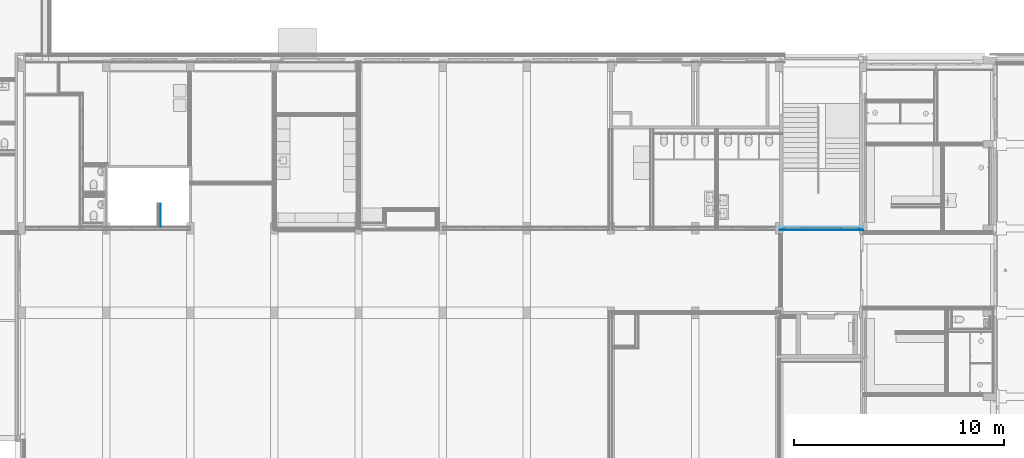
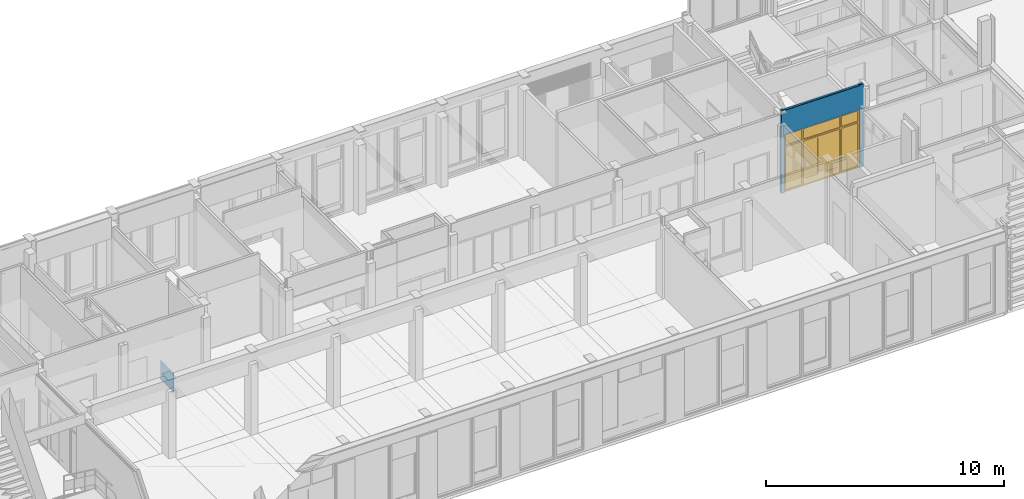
# One storey, part 67 of 109: 4 building element parts, 1 door, 1 opening, 2 elements without a shape of their own, plus 2 elements that do not belong to this part.
"""IFC2X3 building model written with IfcOpenShell, lengths in millimetres."""

from ifc_helpers import new_model, entity, si_unit, converted_unit, derived_unit, money_unit, direction, frame, origin_with_axes, place, context, subcontext, project, spatial, open_shell, faceted_brep, surface_model, material, type_object, element, fill, aggregate, save


model = new_model("IFC2X3")

# Units and contexts
model_context = context("Model", 3, precision=0.01, world=origin_with_axes(), true_north=direction((0.0, 1.0)))
body_context = subcontext(model_context, "Body", "Model", "MODEL_VIEW")
ifc_project = project(units=[si_unit("LENGTHUNIT", "METRE", prefix="MILLI"), si_unit("AREAUNIT", "SQUARE_METRE"), si_unit("VOLUMEUNIT", "CUBIC_METRE"), converted_unit("PLANEANGLEUNIT", "DEGREE", entity("IfcPlaneAngleMeasure", 0.0174532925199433), si_unit("PLANEANGLEUNIT", "RADIAN"), dimensions=[0, 0, 0, 0, 0, 0, 0]), money_unit("EUR"), converted_unit("TIMEUNIT", "Year", entity("IfcTimeMeasure", 31557600.0), si_unit("TIMEUNIT", "SECOND"), dimensions=[0, 0, 1, 0, 0, 0, 0]), si_unit("MASSUNIT", "GRAM", prefix="KILO"), si_unit("THERMODYNAMICTEMPERATUREUNIT", "DEGREE_CELSIUS"), si_unit("LUMINOUSINTENSITYUNIT", "LUMEN"), si_unit("ENERGYUNIT", "JOULE", prefix="MEGA"), derived_unit("THERMALCONDUCTANCEUNIT", [(si_unit("POWERUNIT", "WATT"), 1), (si_unit("LENGTHUNIT", "METRE"), -1), (si_unit("THERMODYNAMICTEMPERATUREUNIT", "KELVIN"), -1)]), derived_unit("SPECIFICHEATCAPACITYUNIT", [(si_unit("ENERGYUNIT", "JOULE"), 1), (si_unit("MASSUNIT", "GRAM", prefix="KILO"), -1), (si_unit("THERMODYNAMICTEMPERATUREUNIT", "KELVIN"), -1)]), derived_unit("MASSDENSITYUNIT", [(si_unit("MASSUNIT", "GRAM", prefix="KILO"), 1), (si_unit("VOLUMEUNIT", "CUBIC_METRE"), -1)])], contexts=[model_context])

# Site, building, storey
site_placement = place(None, origin_with_axes())
site = spatial("IfcSite", under=ifc_project, at=site_placement, Name="<site naam>", CompositionType="ELEMENT")
building_placement = place(site_placement, origin_with_axes())
building = spatial("IfcBuilding", under=site, at=building_placement, Name="<Naam gebouw>", CompositionType="ELEMENT")
storey_placement = place(building_placement, origin_with_axes())
storey = spatial("IfcBuildingStorey", under=building, at=storey_placement, Name="00 Begane grond", CompositionType="ELEMENT", Elevation=0.0)

# Door
door_style = type_object("IfcDoorStyle", Name="D2 bl zl2 27", ConstructionType="NOTDEFINED", OperationType="USERDEFINED", ParameterTakesPrecedence=False, Sizeable=False)
wall_1_placement = place(storey_placement, frame((48015.00007716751, 11999.99999919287, 0.0), z_axis=(0.0, 0.0, 1.0), x_axis=(1.0, 2.196419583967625e-10, 0.0)))
opening_placement = place(wall_1_placement, frame((1984.999943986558, 0.0, 0.0), z_axis=(0.0, 0.0, 1.0), x_axis=(1.0, 0.0, 0.0)))
door_placement = place(opening_placement, frame((-1824.999978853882, 0.0, 0.0), z_axis=(0.0, 0.0, 1.0), x_axis=(1.0, 0.0, 0.0)))
door = element("IfcDoor", 1, at=door_placement, inside=storey, type_object=door_style, Name="22_BI-D-04_305", ObjectType="DOOR", OverallHeight=3000.0, OverallWidth=3650.0, context=body_context, shape_type="SurfaceModel", body=[
    faceted_brep([(907.9999788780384, 34.99999976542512, 12.0000000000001), (924.9999788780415, 34.99999976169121, 12.0000000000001), (924.9999788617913, -39.00000023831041, 12.0000000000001), (2724.999978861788, -39.00000063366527, 11.99999999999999), (2724.999978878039, 34.99999936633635, 11.99999999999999), (2741.999978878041, 34.99999936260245, 11.99999999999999), (2741.999978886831, 74.9999993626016, 11.99999999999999), (907.9999788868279, 74.99999976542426, 12.0000000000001), (907.9999788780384, 34.99999976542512, 0.0), (924.9999788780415, 34.99999976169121, 0.0), (924.9999788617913, -39.00000023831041, 0.0), (2724.999978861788, -39.00000063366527, 0.0), (2724.999978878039, 34.99999936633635, 0.0), (2741.999978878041, 34.99999936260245, 0.0), (2741.999978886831, 74.9999993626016, 0.0), (907.9999788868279, 74.99999976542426, 0.0)], [[[0, 1, 2, 3, 4, 5, 6, 7]], [[1, 0, 8, 9]], [[10, 2, 1, 9]], [[2, 10, 11, 3]], [[3, 11, 12, 4]], [[5, 4, 12, 13]], [[13, 14, 6, 5]], [[15, 7, 6, 14]], [[8, 0, 7, 15]], [[9, 8, 15, 14, 13, 12, 11, 10]]]),
    faceted_brep([(3.294786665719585e-08, 74.9999999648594, 0.0), (67.00000003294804, 74.99999995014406, 0.0), (67.00000000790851, -39.00000004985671, 0.0), (7.908340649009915e-09, -39.00000003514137, 0.0), (3.294786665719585e-08, 74.9999999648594, 2933.0), (67.00000003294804, 74.99999995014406, 2933.0), (67.00000003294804, 74.99999995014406, 2367.0), (67.00000003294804, 74.99999995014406, 2300.0), (67.00000003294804, 74.99999995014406, 66.99999999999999), (67.00000000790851, -39.00000004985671, 67.0), (67.00000000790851, -39.00000004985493, 2300.0), (67.00000000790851, -39.00000004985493, 2367.0), (67.00000000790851, -39.00000004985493, 2933.0), (7.908340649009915e-09, -39.00000003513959, 2933.0)], [[[0, 1, 2, 3]], [[0, 4, 5, 6, 7, 8, 1]], [[1, 8, 9, 2]], [[3, 2, 9, 10, 11, 12, 13]], [[4, 0, 3, 13]], [[5, 4, 13, 12]], [[6, 5, 12, 11]], [[7, 6, 11, 10]], [[8, 7, 10, 9]]]),
    faceted_brep([(924.9999788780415, 34.99999976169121, 2317.0), (924.9999788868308, 74.99999976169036, 2317.0), (924.9999788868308, 74.99999976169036, 2367.0), (924.9999788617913, -39.00000023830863, 2367.0), (924.9999788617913, -39.00000023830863, 2300.0), (924.9999788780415, 34.99999976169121, 2300.0), (907.9999788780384, 34.99999976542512, 2317.0), (907.9999788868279, 74.99999976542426, 2317.0), (907.9999788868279, 74.99999976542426, 0.0), (857.9999788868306, 74.99999977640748, 0.0), (857.9999788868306, 74.99999977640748, 66.99999999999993), (857.9999788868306, 74.99999977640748, 2300.0), (857.9999788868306, 74.99999977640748, 2367.0), (857.9999788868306, 74.99999977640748, 2933.0), (924.9999788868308, 74.99999976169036, 2933.0), (924.9999788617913, -39.00000023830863, 2933.0), (857.9999788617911, -39.00000022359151, 2933.0), (857.9999788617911, -39.00000022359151, 2367.0), (857.9999788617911, -39.00000022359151, 2300.0), (857.9999788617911, -39.00000022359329, 66.99999999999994), (857.9999788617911, -39.00000022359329, 0.0), (924.9999788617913, -39.00000023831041, 0.0), (924.9999788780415, 34.99999976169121, 0.0), (907.9999788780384, 34.99999976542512, 0.0)], [[[0, 1, 2, 3, 4, 5]], [[1, 0, 6, 7]], [[7, 8, 9, 10, 11, 12, 13, 14, 2, 1]], [[14, 15, 3, 2]], [[4, 3, 15, 16, 17, 18, 19, 20, 21]], [[22, 5, 4, 21]], [[0, 5, 22, 23, 6]], [[8, 7, 6, 23]], [[23, 22, 21, 20, 9, 8]], [[9, 20, 19, 10]], [[10, 19, 18, 11]], [[11, 18, 17, 12]], [[12, 17, 16, 13]], [[13, 16, 15, 14]]]),
    faceted_brep([(67.00000003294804, 74.99999995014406, 66.99999999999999), (67.00000003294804, 74.99999995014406, 0.0), (67.00000000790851, -39.00000004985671, 0.0), (67.00000000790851, -39.00000004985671, 67.0), (857.9999788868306, 74.99999977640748, 66.99999999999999), (857.9999788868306, 74.99999977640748, 0.0), (857.9999788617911, -39.00000022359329, 0.0), (857.9999788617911, -39.00000022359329, 67.0)], [[[0, 1, 2, 3]], [[0, 4, 5, 1]], [[1, 5, 6, 2]], [[3, 2, 6, 7]], [[4, 0, 3, 7]], [[5, 4, 7, 6]]]),
    faceted_brep([(3649.999957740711, 74.99999916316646, 0.0), (3649.999957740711, 74.99999916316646, 2933.0), (3649.999957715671, -39.00000083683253, 2933.0), (3649.999957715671, -39.0000008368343, 0.0), (3582.999957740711, 74.9999991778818, 0.0), (3582.999957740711, 74.9999991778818, 66.99999999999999), (3582.999957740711, 74.9999991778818, 2300.0), (3582.999957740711, 74.9999991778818, 2367.0), (3582.999957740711, 74.9999991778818, 2933.0), (3582.999957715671, -39.00000082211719, 2933.0), (3582.999957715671, -39.00000082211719, 2367.0), (3582.999957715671, -39.00000082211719, 2300.0), (3582.999957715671, -39.00000082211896, 67.0), (3582.999957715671, -39.00000082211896, 0.0)], [[[0, 1, 2, 3]], [[0, 4, 5, 6, 7, 8, 1]], [[1, 8, 9, 2]], [[3, 2, 9, 10, 11, 12, 13]], [[4, 0, 3, 13]], [[5, 4, 13, 12]], [[6, 5, 12, 11]], [[7, 6, 11, 10]], [[8, 7, 10, 9]]]),
    faceted_brep([(2741.999978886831, 74.9999993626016, 2317.0), (2724.999978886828, 74.9999993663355, 2317.0), (2724.999978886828, 74.9999993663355, 2367.0), (2724.999978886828, 74.9999993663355, 2933.0), (2791.999978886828, 74.99999935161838, 2933.0), (2791.999978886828, 74.99999935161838, 2367.0), (2791.999978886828, 74.99999935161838, 2300.0), (2791.999978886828, 74.99999935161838, 66.99999999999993), (2791.999978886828, 74.99999935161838, 0.0), (2741.999978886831, 74.9999993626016, 0.0), (2741.999978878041, 34.99999936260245, 2317.0), (2724.999978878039, 34.99999936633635, 2317.0), (2724.999978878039, 34.99999936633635, 2300.0), (2724.999978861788, -39.00000063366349, 2300.0), (2724.999978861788, -39.00000063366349, 2367.0), (2724.999978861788, -39.00000063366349, 2933.0), (2791.999978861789, -39.00000064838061, 2933.0), (2791.999978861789, -39.00000064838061, 2367.0), (2791.999978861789, -39.00000064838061, 2300.0), (2791.999978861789, -39.00000064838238, 66.99999999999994), (2791.999978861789, -39.00000064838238, 0.0), (2741.999978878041, 34.99999936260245, 0.0), (2724.999978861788, -39.00000063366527, 0.0), (2724.999978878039, 34.99999936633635, 0.0)], [[[0, 1, 2, 3, 4, 5, 6, 7, 8, 9]], [[1, 0, 10, 11]], [[11, 12, 13, 14, 2, 1]], [[2, 14, 15, 3]], [[3, 15, 16, 4]], [[4, 16, 17, 5]], [[5, 17, 18, 6]], [[6, 18, 19, 7]], [[7, 19, 20, 8]], [[21, 9, 8, 20, 22, 23]], [[0, 9, 21, 10]], [[21, 23, 12, 11, 10]], [[12, 23, 22, 13]], [[19, 18, 17, 16, 15, 14, 13, 22, 20]]]),
    faceted_brep([(2791.999978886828, 74.99999935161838, 66.99999999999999), (2791.999978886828, 74.99999935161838, 0.0), (2791.999978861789, -39.00000064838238, 0.0), (2791.999978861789, -39.00000064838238, 67.0), (3582.999957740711, 74.9999991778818, 66.99999999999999), (3582.999957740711, 74.9999991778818, 0.0), (3582.999957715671, -39.00000082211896, 0.0), (3582.999957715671, -39.00000082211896, 67.0)], [[[0, 1, 2, 3]], [[0, 4, 5, 1]], [[1, 5, 6, 2]], [[3, 2, 6, 7]], [[4, 0, 3, 7]], [[5, 4, 7, 6]]]),
    faceted_brep([(3.294786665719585e-08, 74.9999999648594, 3000.0), (3.294786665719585e-08, 74.9999999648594, 2933.0), (7.908340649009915e-09, -39.00000003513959, 2933.0), (7.908340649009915e-09, -39.00000003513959, 3000.0), (3649.999957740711, 74.99999916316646, 3000.0), (3649.999957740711, 74.99999916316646, 2933.0), (3582.999957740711, 74.9999991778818, 2933.0), (2791.999978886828, 74.99999935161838, 2933.0), (2724.999978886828, 74.9999993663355, 2933.0), (924.9999788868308, 74.99999976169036, 2933.0), (857.9999788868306, 74.99999977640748, 2933.0), (67.00000003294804, 74.99999995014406, 2933.0), (67.00000000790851, -39.00000004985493, 2933.0), (857.9999788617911, -39.00000022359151, 2933.0), (924.9999788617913, -39.00000023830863, 2933.0), (2724.999978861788, -39.00000063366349, 2933.0), (2791.999978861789, -39.00000064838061, 2933.0), (3582.999957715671, -39.00000082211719, 2933.0), (3649.999957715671, -39.00000083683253, 2933.0), (3649.999957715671, -39.00000083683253, 3000.0)], [[[0, 1, 2, 3]], [[0, 4, 5, 6, 7, 8, 9, 10, 11, 1]], [[1, 11, 12, 2]], [[3, 2, 12, 13, 14, 15, 16, 17, 18, 19]], [[4, 0, 3, 19]], [[5, 4, 19, 18]], [[6, 5, 18, 17]], [[7, 6, 17, 16]], [[8, 7, 16, 15]], [[9, 8, 15, 14]], [[10, 9, 14, 13]], [[11, 10, 13, 12]]]),
    faceted_brep([(67.00000003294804, 74.99999995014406, 2300.0), (857.9999788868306, 74.99999977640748, 2300.0), (857.9999788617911, -39.00000022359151, 2300.0), (67.00000000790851, -39.00000004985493, 2300.0), (67.00000003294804, 74.99999995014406, 2367.0), (857.9999788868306, 74.99999977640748, 2367.0), (857.9999788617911, -39.00000022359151, 2367.0), (67.00000000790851, -39.00000004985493, 2367.0)], [[[0, 1, 2, 3]], [[0, 4, 5, 1]], [[1, 5, 6, 2]], [[3, 2, 6, 7]], [[4, 0, 3, 7]], [[5, 4, 7, 6]]]),
    faceted_brep([(3582.999957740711, 74.9999991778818, 2367.0), (2791.999978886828, 74.99999935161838, 2367.0), (2791.999978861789, -39.00000064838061, 2367.0), (3582.999957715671, -39.00000082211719, 2367.0), (3582.999957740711, 74.9999991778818, 2300.0), (2791.999978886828, 74.99999935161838, 2300.0), (2791.999978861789, -39.00000064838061, 2300.0), (3582.999957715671, -39.00000082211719, 2300.0)], [[[0, 1, 2, 3]], [[0, 4, 5, 1]], [[1, 5, 6, 2]], [[3, 2, 6, 7]], [[4, 0, 3, 7]], [[5, 4, 7, 6]]]),
    faceted_brep([(2724.999978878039, 34.99999936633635, 2317.0), (2724.999978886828, 74.9999993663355, 2317.0), (2724.999978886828, 74.9999993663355, 2367.0), (2724.999978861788, -39.00000063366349, 2367.0), (2724.999978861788, -39.00000063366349, 2300.0), (2724.999978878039, 34.99999936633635, 2300.0), (924.9999788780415, 34.99999976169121, 2317.0), (924.9999788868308, 74.99999976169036, 2317.0), (924.9999788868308, 74.99999976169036, 2367.0), (924.9999788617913, -39.00000023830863, 2367.0), (924.9999788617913, -39.00000023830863, 2300.0), (924.9999788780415, 34.99999976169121, 2300.0)], [[[0, 1, 2, 3, 4, 5]], [[1, 0, 6, 7]], [[1, 7, 8, 2]], [[8, 9, 3, 2]], [[10, 4, 3, 9]], [[11, 5, 4, 10]], [[0, 5, 11, 6]], [[6, 11, 10, 9, 8, 7]]]),
    faceted_brep([(2741.999978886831, 74.9999993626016, 312.0), (2741.999978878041, 34.99999936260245, 312.0), (2591.999978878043, 34.99999939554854, 312.0), (2591.999978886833, 74.99999939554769, 312.0), (2741.999978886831, 74.9999993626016, 2167.0), (2741.999978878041, 34.99999936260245, 2167.0), (2591.999978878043, 34.99999939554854, 2167.0), (2591.999978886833, 74.99999939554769, 2167.0)], [[[0, 1, 2, 3]], [[4, 5, 1, 0]], [[1, 5, 6, 2]], [[3, 2, 6, 7]], [[0, 3, 7, 4]], [[7, 6, 5, 4]]]),
    faceted_brep([(1824.999978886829, 74.99999956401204, 312.0), (1824.99997887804, 34.9999995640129, 312.0), (1824.99997887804, 34.9999995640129, 2167.0), (1824.999978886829, 74.99999956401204, 2167.0), (1974.999978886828, 74.99999953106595, 312.0), (1974.999978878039, 34.99999953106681, 312.0), (1974.999978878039, 34.99999953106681, 2167.0), (1974.999978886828, 74.99999953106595, 2167.0)], [[[0, 1, 2, 3]], [[4, 5, 1, 0]], [[1, 5, 6, 2]], [[3, 2, 6, 7]], [[0, 3, 7, 4]], [[7, 6, 5, 4]]]),
    faceted_brep([(2741.999978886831, 74.9999993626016, 11.99999999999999), (2741.999978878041, 34.99999936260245, 11.99999999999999), (1824.99997887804, 34.9999995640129, 11.99999999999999), (1824.999978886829, 74.99999956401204, 11.99999999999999), (2741.999978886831, 74.9999993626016, 312.0), (2741.999978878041, 34.99999936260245, 312.0), (2591.999978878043, 34.99999939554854, 312.0), (1974.999978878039, 34.99999953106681, 312.0), (1824.99997887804, 34.9999995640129, 312.0), (1824.999978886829, 74.99999956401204, 312.0), (1974.999978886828, 74.99999953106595, 312.0), (2591.999978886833, 74.99999939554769, 312.0)], [[[0, 1, 2, 3]], [[4, 5, 1, 0]], [[1, 5, 6, 7, 8, 2]], [[3, 2, 8, 9]], [[0, 3, 9, 10, 11, 4]], [[11, 6, 5, 4]], [[10, 7, 6, 11]], [[9, 8, 7, 10]]]),
    faceted_brep([(2741.999978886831, 74.9999993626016, 2317.0), (2741.999978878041, 34.99999936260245, 2317.0), (2741.999978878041, 34.99999936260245, 2167.0), (2741.999978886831, 74.9999993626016, 2167.0), (1824.999978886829, 74.99999956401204, 2317.0), (1824.99997887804, 34.9999995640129, 2317.0), (1824.99997887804, 34.9999995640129, 2167.0), (1974.999978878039, 34.99999953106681, 2167.0), (2591.999978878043, 34.99999939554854, 2167.0), (2591.999978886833, 74.99999939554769, 2167.0), (1974.999978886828, 74.99999953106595, 2167.0), (1824.999978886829, 74.99999956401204, 2167.0)], [[[0, 1, 2, 3]], [[4, 5, 1, 0]], [[1, 5, 6, 7, 8, 2]], [[3, 2, 8, 9]], [[0, 3, 9, 10, 11, 4]], [[11, 6, 5, 4]], [[10, 7, 6, 11]], [[9, 8, 7, 10]]]),
    surface_model("IfcShellBasedSurfaceModel", [(2591.999978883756, 60.99999939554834, 312.0), (1974.999978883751, 60.99999953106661, 312.0), (1974.999978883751, 60.99999953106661, 2167.0), (2591.999978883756, 60.99999939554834, 2167.0)], [open_shell([[[0, 1, 2, 3]]])]),
    surface_model("IfcShellBasedSurfaceModel", [(2591.99997888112, 48.99999939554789, 312.0), (2591.99997888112, 48.99999939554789, 2167.0), (1974.999978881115, 48.99999953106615, 2167.0), (1974.999978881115, 48.99999953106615, 312.0)], [open_shell([[[0, 1, 2, 3]]])]),
    faceted_brep([(907.9999788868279, 74.99999976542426, 312.0), (1057.999978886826, 74.99999973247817, 312.0), (1057.999978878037, 34.99999973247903, 312.0), (907.9999788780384, 34.99999976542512, 312.0), (907.9999788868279, 74.99999976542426, 2167.0), (1057.999978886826, 74.99999973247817, 2167.0), (1057.999978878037, 34.99999973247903, 2167.0), (907.9999788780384, 34.99999976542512, 2167.0)], [[[0, 1, 2, 3]], [[0, 4, 5, 1]], [[1, 5, 6, 2]], [[3, 2, 6, 7]], [[4, 0, 3, 7]], [[5, 4, 7, 6]]]),
    faceted_brep([(1824.999978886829, 74.99999956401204, 312.0), (1824.999978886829, 74.99999956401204, 2167.0), (1824.99997887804, 34.9999995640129, 2167.0), (1824.99997887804, 34.9999995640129, 312.0), (1674.999978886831, 74.99999959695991, 312.0), (1674.999978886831, 74.99999959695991, 2167.0), (1674.999978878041, 34.99999959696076, 2167.0), (1674.999978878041, 34.99999959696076, 312.0)], [[[0, 1, 2, 3]], [[0, 4, 5, 1]], [[1, 5, 6, 2]], [[3, 2, 6, 7]], [[4, 0, 3, 7]], [[5, 4, 7, 6]]]),
    faceted_brep([(907.9999788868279, 74.99999976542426, 11.99999999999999), (1824.999978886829, 74.99999956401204, 11.99999999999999), (1824.99997887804, 34.9999995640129, 11.99999999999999), (907.9999788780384, 34.99999976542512, 11.99999999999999), (907.9999788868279, 74.99999976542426, 312.0), (1057.999978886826, 74.99999973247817, 312.0), (1674.999978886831, 74.99999959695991, 312.0), (1824.999978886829, 74.99999956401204, 312.0), (1824.99997887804, 34.9999995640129, 312.0), (1674.999978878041, 34.99999959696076, 312.0), (1057.999978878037, 34.99999973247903, 312.0), (907.9999788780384, 34.99999976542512, 312.0)], [[[0, 1, 2, 3]], [[0, 4, 5, 6, 7, 1]], [[1, 7, 8, 2]], [[3, 2, 8, 9, 10, 11]], [[4, 0, 3, 11]], [[5, 4, 11, 10]], [[6, 5, 10, 9]], [[7, 6, 9, 8]]]),
    faceted_brep([(907.9999788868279, 74.99999976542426, 2317.0), (907.9999788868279, 74.99999976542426, 2167.0), (907.9999788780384, 34.99999976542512, 2167.0), (907.9999788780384, 34.99999976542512, 2317.0), (1824.999978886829, 74.99999956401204, 2317.0), (1824.999978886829, 74.99999956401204, 2167.0), (1674.999978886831, 74.99999959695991, 2167.0), (1057.999978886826, 74.99999973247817, 2167.0), (1057.999978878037, 34.99999973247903, 2167.0), (1674.999978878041, 34.99999959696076, 2167.0), (1824.99997887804, 34.9999995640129, 2167.0), (1824.99997887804, 34.9999995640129, 2317.0)], [[[0, 1, 2, 3]], [[0, 4, 5, 6, 7, 1]], [[1, 7, 8, 2]], [[3, 2, 8, 9, 10, 11]], [[4, 0, 3, 11]], [[5, 4, 11, 10]], [[6, 5, 10, 9]], [[7, 6, 9, 8]]]),
    surface_model("IfcShellBasedSurfaceModel", [(1057.99997888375, 60.99999973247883, 312.0), (1057.99997888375, 60.99999973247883, 2167.0), (1674.999978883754, 60.99999959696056, 2167.0), (1674.999978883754, 60.99999959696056, 312.0)], [open_shell([[[0, 1, 2, 3]]])]),
    surface_model("IfcShellBasedSurfaceModel", [(1057.999978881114, 48.99999973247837, 312.0), (1674.999978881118, 48.99999959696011, 312.0), (1674.999978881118, 48.99999959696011, 2167.0), (1057.999978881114, 48.99999973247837, 2167.0)], [open_shell([[[0, 1, 2, 3]]])]),
    surface_model("IfcShellBasedSurfaceModel", [(67.00000001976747, 14.99999995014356, 2367.0), (857.9999788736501, 14.99999977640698, 2367.0), (857.9999788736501, 14.99999977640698, 2933.0), (67.00000001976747, 14.99999995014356, 2933.0)], [open_shell([[[0, 1, 2, 3]]])]),
    surface_model("IfcShellBasedSurfaceModel", [(67.00000002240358, 26.99999995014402, 2367.0), (67.00000002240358, 26.99999995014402, 2933.0), (857.9999788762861, 26.99999977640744, 2933.0), (857.9999788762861, 26.99999977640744, 2367.0)], [open_shell([[[0, 1, 2, 3]]])]),
    surface_model("IfcShellBasedSurfaceModel", [(924.9999788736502, 14.99999976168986, 2367.0), (2724.999978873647, 14.999999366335, 2367.0), (2724.999978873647, 14.999999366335, 2933.0), (924.9999788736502, 14.99999976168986, 2933.0)], [open_shell([[[0, 1, 2, 3]]])]),
    surface_model("IfcShellBasedSurfaceModel", [(924.9999788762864, 26.99999976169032, 2367.0), (924.9999788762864, 26.99999976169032, 2933.0), (2724.999978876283, 26.99999936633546, 2933.0), (2724.999978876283, 26.99999936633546, 2367.0)], [open_shell([[[0, 1, 2, 3]]])]),
    surface_model("IfcShellBasedSurfaceModel", [(2791.999978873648, 14.99999935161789, 2367.0), (3582.99995772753, 14.99999917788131, 2367.0), (3582.99995772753, 14.99999917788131, 2933.0), (2791.999978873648, 14.99999935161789, 2933.0)], [open_shell([[[0, 1, 2, 3]]])]),
    surface_model("IfcShellBasedSurfaceModel", [(2791.999978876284, 26.99999935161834, 2367.0), (2791.999978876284, 26.99999935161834, 2933.0), (3582.999957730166, 26.99999917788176, 2933.0), (3582.999957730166, 26.99999917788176, 2367.0)], [open_shell([[[0, 1, 2, 3]]])]),
    surface_model("IfcShellBasedSurfaceModel", [(67.00000001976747, 14.99999995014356, 66.99999999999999), (857.9999788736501, 14.99999977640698, 66.99999999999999), (857.9999788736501, 14.99999977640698, 2300.0), (67.00000001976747, 14.99999995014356, 2300.0)], [open_shell([[[0, 1, 2, 3]]])]),
    surface_model("IfcShellBasedSurfaceModel", [(67.00000002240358, 26.99999995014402, 66.99999999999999), (67.00000002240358, 26.99999995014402, 2300.0), (857.9999788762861, 26.99999977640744, 2300.0), (857.9999788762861, 26.99999977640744, 66.99999999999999)], [open_shell([[[0, 1, 2, 3]]])]),
    surface_model("IfcShellBasedSurfaceModel", [(2791.999978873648, 14.99999935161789, 66.99999999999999), (3582.99995772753, 14.99999917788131, 66.99999999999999), (3582.99995772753, 14.99999917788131, 2300.0), (2791.999978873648, 14.99999935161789, 2300.0)], [open_shell([[[0, 1, 2, 3]]])]),
    surface_model("IfcShellBasedSurfaceModel", [(2791.999978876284, 26.99999935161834, 66.99999999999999), (2791.999978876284, 26.99999935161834, 2300.0), (3582.999957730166, 26.99999917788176, 2300.0), (3582.999957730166, 26.99999917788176, 66.99999999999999)], [open_shell([[[0, 1, 2, 3]]])]),
])

# Wall, opening
wall_type = type_object("IfcWallType", Name="MS-01 GF 150 ECO DGS/2.100.2.A 150", PredefinedType="NOTDEFINED")
wall_1 = element("IfcWall", 2, at=wall_1_placement, inside=storey, type_object=wall_type, Name="22_Binnenwand_MS-01")
opening = element("IfcOpeningElement", 3, at=opening_placement, cuts=wall_1, Name="22_BI-D-04_305", context=body_context, shape_type="Brep", body=[
    faceted_brep([(-1824.999978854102, -76.0000000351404, 3000.0), (-1824.999978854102, -76.0000000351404, 0.0), (1824.999978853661, -76.00000083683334, 0.0), (1824.999978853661, -76.00000083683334, 3000.0), (-1824.999978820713, 76.00000084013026, 3000.0), (-1824.999978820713, 76.00000084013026, 0.0), (1824.99997888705, 76.00000003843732, 0.0), (1824.99997888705, 76.00000003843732, 3000.0)], [[[0, 1, 2, 3]], [[4, 5, 1, 0]], [[5, 6, 2, 1]], [[6, 7, 3, 2]], [[7, 4, 0, 3]], [[6, 5, 4, 7]]]),
])

fill(opening, door)

# Building element part
ifc_material_1 = material(Name="gipsplaat")
building_element_part_1_placement = place(wall_1_placement, origin_with_axes())
building_element_part_1 = element("IfcBuildingElementPart", 4, at=building_element_part_1_placement, material=ifc_material_1, Name="gipsplaat", context=body_context, shape_type="Brep", body=[
    faceted_brep([(159.5777771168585, 74.99999996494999, 4220.0), (3809.999922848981, 74.99999916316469, 4220.0), (3809.999922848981, 74.99999916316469, 4250.0), (3984.999922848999, 74.99999912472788, 4250.0), (3984.999922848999, 74.99999912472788, 0.0), (1.647748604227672e-08, 74.99999999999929, 0.0), (1.647748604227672e-08, 75.00000000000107, 4250.0), (159.5777771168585, 74.99999996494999, 4250.0), (159.5777771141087, 62.49999996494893, 4220.0), (3809.999922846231, 62.49999916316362, 4220.0), (3809.999922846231, 62.49999916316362, 4250.0), (3984.999922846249, 62.49999912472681, 4250.0), (3984.999922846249, 62.49999912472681, 0.0), (1.372768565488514e-08, 62.5, 0.0), (1.372768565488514e-08, 62.5, 4250.0), (159.5777771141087, 62.49999996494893, 4250.0)], [[[0, 1, 2, 3, 4, 5, 6, 7]], [[1, 0, 8, 9]], [[10, 2, 1, 9]], [[2, 10, 11, 3]], [[12, 4, 3, 11]], [[5, 4, 12, 13]], [[6, 5, 13, 14]], [[15, 7, 6, 14]], [[0, 7, 15, 8]], [[8, 15, 14, 13, 12, 11, 10, 9]]]),
])

ifc_material_2 = material(Name="isolatie_steenwol LSW")
building_element_part_2_placement = place(wall_1_placement, origin_with_axes())
building_element_part_2 = element("IfcBuildingElementPart", 5, at=building_element_part_2_placement, material=ifc_material_2, Name="isolatie_steenwol LSW", context=body_context, shape_type="Brep", body=[
    faceted_brep([(159.577777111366, 49.99999996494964, 4220.0), (3809.999922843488, 49.99999916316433, 4220.0), (3809.999922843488, 49.99999916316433, 4250.0), (3984.999922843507, 49.99999912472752, 4250.0), (3984.999922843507, 49.99999912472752, 0.0), (1.098499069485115e-08, 50.00000000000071, 0.0), (1.098499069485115e-08, 50.00000000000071, 4250.0), (159.577777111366, 49.99999996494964, 4250.0), (159.5777770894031, -50.00000003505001, 4220.0), (3809.999922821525, -50.00000083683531, 4220.0), (3809.999922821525, -50.00000083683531, 4250.0), (3984.999922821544, -50.00000087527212, 4250.0), (3984.999922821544, -50.00000087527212, 0.0), (159.9999151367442, -38.99999919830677, 0.0), (159.9999151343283, -50.00000003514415, 0.0), (-1.097788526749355e-08, -50.00000000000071, 0.0), (3908.6813514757, -50.00000085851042, 0.0), (3908.681351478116, -39.00000002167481, 0.0), (-1.097788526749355e-08, -49.99999999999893, 4250.0), (159.5777770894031, -50.00000003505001, 4250.0), (159.9999151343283, -50.00000003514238, 3.000000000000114), (3908.6813514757, -50.00000085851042, 3.000000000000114), (159.9999151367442, -38.99999919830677, 3.000000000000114), (3908.681351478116, -39.00000002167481, 3.000000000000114)], [[[0, 1, 2, 3, 4, 5, 6, 7]], [[1, 0, 8, 9]], [[10, 2, 1, 9]], [[2, 10, 11, 3]], [[12, 4, 3, 11]], [[13, 14, 15, 5, 4, 12, 16, 17]], [[6, 5, 15, 18]], [[19, 7, 6, 18]], [[0, 7, 19, 8]], [[8, 19, 18, 15, 14, 20, 21, 16, 12, 11, 10, 9]], [[14, 13, 22, 20]], [[17, 16, 21, 23]], [[13, 17, 23, 22]], [[21, 20, 22, 23]]]),
])

building_element_part_3_placement = place(wall_1_placement, origin_with_axes())
building_element_part_3 = element("IfcBuildingElementPart", 6, at=building_element_part_3_placement, material=ifc_material_1, Name="gipsplaat", context=body_context, shape_type="Brep", body=[
    faceted_brep([(159.5777771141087, 62.49999996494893, 4220.0), (3809.999922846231, 62.49999916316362, 4220.0), (3809.999922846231, 62.49999916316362, 4250.0), (3984.999922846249, 62.49999912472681, 4250.0), (3984.999922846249, 62.49999912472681, 0.0), (1.372768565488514e-08, 62.5, 0.0), (1.372768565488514e-08, 62.5, 4250.0), (159.5777771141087, 62.4999999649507, 4250.0), (159.577777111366, 49.99999996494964, 4220.0), (3809.999922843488, 49.99999916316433, 4220.0), (3809.999922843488, 49.99999916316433, 4250.0), (3984.999922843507, 49.99999912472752, 4250.0), (3984.999922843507, 49.99999912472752, 0.0), (1.098499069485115e-08, 50.00000000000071, 0.0), (1.098499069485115e-08, 50.00000000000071, 4250.0), (159.577777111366, 49.99999996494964, 4250.0)], [[[0, 1, 2, 3, 4, 5, 6, 7]], [[1, 0, 8, 9]], [[10, 2, 1, 9]], [[2, 10, 11, 3]], [[12, 4, 3, 11]], [[5, 4, 12, 13]], [[6, 5, 13, 14]], [[15, 7, 6, 14]], [[0, 7, 15, 8]], [[8, 15, 14, 13, 12, 11, 10, 9]]]),
])

building_element_part_4_placement = place(wall_1_placement, origin_with_axes())
building_element_part_4 = element("IfcBuildingElementPart", 7, at=building_element_part_4_placement, material=ifc_material_1, Name="gipsplaat", context=body_context, shape_type="Brep", body=[
    faceted_brep([(159.5777770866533, -62.50000003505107, 4220.0), (3809.999922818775, -62.50000083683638, 4220.0), (3809.999922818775, -62.50000083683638, 4250.0), (3984.999922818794, -62.50000087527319, 4250.0), (3984.999922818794, -62.50000087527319, 0.0), (3908.68135147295, -62.50000085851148, 0.0), (3908.68135147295, -62.50000085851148, 3.000000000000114), (159.9999151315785, -62.50000003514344, 3.000000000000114), (159.9999151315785, -62.50000003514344, 0.0), (-1.372768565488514e-08, -62.5, 0.0), (-1.372768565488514e-08, -62.5, 4250.0), (159.5777770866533, -62.50000003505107, 4250.0), (159.5777770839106, -74.99999922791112, 4220.0), (3809.999922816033, -75.00000083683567, 4220.0), (3809.999922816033, -75.00000083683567, 4250.0), (3984.999922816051, -75.00000087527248, 4250.0), (3984.999922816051, -75.00000087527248, 0.0), (3908.681351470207, -75.00000085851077, 0.0), (3908.681351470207, -75.00000085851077, 3.000000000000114), (159.9999151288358, -75.00000003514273, 3.000000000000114), (159.9999151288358, -75.00000003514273, 0.0), (-1.647038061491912e-08, -74.99999999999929, 0.0), (-1.569588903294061e-08, -71.46987034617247, 3040.0), (-1.647038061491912e-08, -74.99999999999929, 3040.0), (-1.647038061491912e-08, -74.99999999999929, 4250.0), (-1.647038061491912e-08, -74.99999999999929, 3000.0), (-1.569588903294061e-08, -71.46987034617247, 3000.0), (159.5777770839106, -74.99999922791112, 4250.0), (20.99992281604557, -75.00000000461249, 3040.0), (20.99992281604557, -75.00000000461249, 3000.0), (20.99992281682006, -71.46987035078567, 3040.0), (20.99992281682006, -71.46987035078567, 3000.0)], [[[0, 1, 2, 3, 4, 5, 6, 7, 8, 9, 10, 11]], [[1, 0, 12, 13]], [[14, 2, 1, 13]], [[2, 14, 15, 3]], [[16, 4, 3, 15]], [[17, 5, 4, 16]], [[6, 5, 17, 18]], [[7, 6, 18, 19]], [[8, 7, 19, 20]], [[8, 20, 21, 9]], [[22, 23, 24, 10, 9, 21, 25, 26]], [[27, 11, 10, 24]], [[0, 11, 27, 12]], [[12, 27, 24, 23, 28, 29, 25, 21, 20, 19, 18, 17, 16, 15, 14, 13]], [[28, 23, 22, 30]], [[25, 29, 31, 26]], [[22, 26, 31, 30]], [[29, 28, 30, 31]]]),
])

building_element_part_5_placement = place(wall_1_placement, origin_with_axes())
building_element_part_5 = element("IfcBuildingElementPart", 8, at=building_element_part_5_placement, material=ifc_material_1, Name="gipsplaat", context=body_context, shape_type="Brep", body=[
    faceted_brep([(159.5777770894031, -50.00000003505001, 4220.0), (3809.999922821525, -50.00000083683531, 4220.0), (3809.999922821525, -50.00000083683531, 4250.0), (3984.999922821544, -50.00000087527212, 4250.0), (3984.999922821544, -50.00000087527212, 0.0), (3908.6813514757, -50.00000085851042, 0.0), (3908.6813514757, -50.00000085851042, 3.000000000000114), (159.9999151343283, -50.00000003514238, 3.000000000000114), (159.9999151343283, -50.00000003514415, 0.0), (-1.097788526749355e-08, -50.00000000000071, 0.0), (-1.097788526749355e-08, -49.99999999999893, 4250.0), (159.5777770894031, -50.00000003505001, 4250.0), (159.5777770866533, -62.50000003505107, 4220.0), (3809.999922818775, -62.50000083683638, 4220.0), (3809.999922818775, -62.50000083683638, 4250.0), (3984.999922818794, -62.50000087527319, 4250.0), (3984.999922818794, -62.50000087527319, 0.0), (3908.68135147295, -62.50000085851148, 0.0), (3908.68135147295, -62.50000085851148, 3.000000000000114), (159.9999151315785, -62.50000003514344, 3.000000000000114), (159.9999151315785, -62.50000003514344, 0.0), (-1.372768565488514e-08, -62.5, 0.0), (-1.372768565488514e-08, -62.5, 4250.0), (159.5777770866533, -62.50000003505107, 4250.0)], [[[0, 1, 2, 3, 4, 5, 6, 7, 8, 9, 10, 11]], [[1, 0, 12, 13]], [[14, 2, 1, 13]], [[2, 14, 15, 3]], [[16, 4, 3, 15]], [[17, 5, 4, 16]], [[6, 5, 17, 18]], [[7, 6, 18, 19]], [[8, 7, 19, 20]], [[8, 20, 21, 9]], [[10, 9, 21, 22]], [[23, 11, 10, 22]], [[0, 11, 23, 12]], [[12, 23, 22, 21, 20, 19, 18, 17, 16, 15, 14, 13]]]),
])

aggregate(wall_1, [building_element_part_1, building_element_part_2, building_element_part_3, building_element_part_4, building_element_part_5])

# Wall, building element part
wall_2_placement = place(storey_placement, frame((18600.1285195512, 13183.47801856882, 0.0), z_axis=(0.0, 0.0, 1.0), x_axis=(0.0, -1.0, 0.0)))
wall_2 = element("IfcWall", 9, at=wall_2_placement, inside=storey, type_object=wall_type, Name="22_Binnenwand_MS-01")
building_element_part_6_placement = place(wall_2_placement, origin_with_axes())
building_element_part_6 = element("IfcBuildingElementPart", 10, at=building_element_part_6_placement, material=ifc_material_1, Name="gipsplaat", context=body_context, shape_type="Brep", body=[
    faceted_brep([(1103.728291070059, -12.49999999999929, 1000.0), (1103.728291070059, 0.0, 1000.0), (0.0, 0.0, 1000.0), (0.0, -12.49999999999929, 1000.0), (1103.728291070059, -12.49999999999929, 0.0), (1103.728291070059, 0.0, 0.0), (0.0, 0.0, 0.0), (0.0, -12.49999999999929, 0.0)], [[[0, 1, 2, 3]], [[0, 4, 5, 1]], [[1, 5, 6, 2]], [[3, 2, 6, 7]], [[4, 0, 3, 7]], [[5, 4, 7, 6]]]),
])
aggregate(wall_2, [building_element_part_6])

save(model, "model.ifc")
